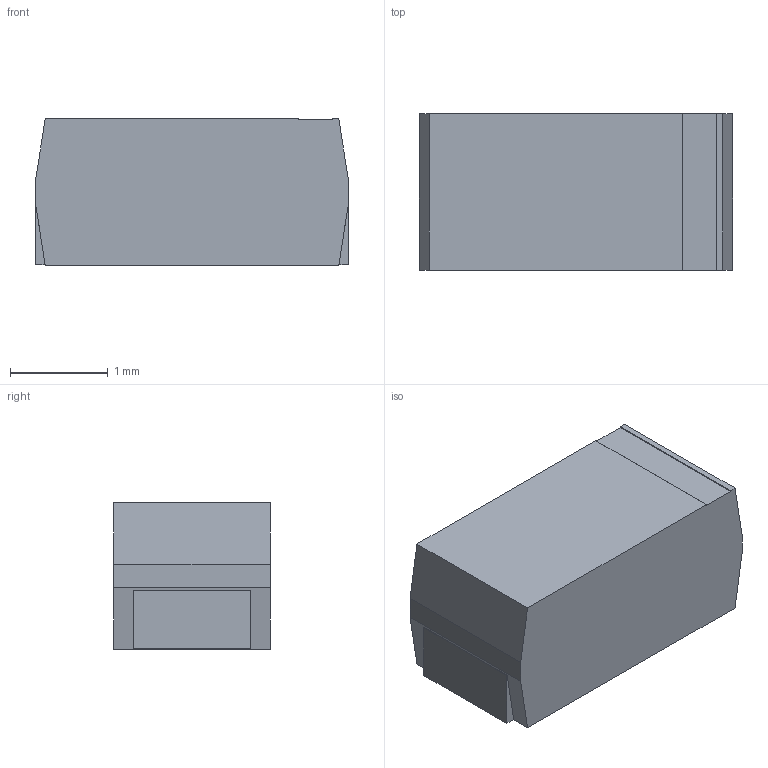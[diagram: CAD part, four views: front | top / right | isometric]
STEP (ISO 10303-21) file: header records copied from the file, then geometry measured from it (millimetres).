
FILE_DESCRIPTION (( 'STEP AP203' ), '1' );
FILE_NAME ('1206 Tantalum.stp.STEP', '2026-08-19T20:49:49', ( '' ), ( '' ), 'SwSTEP 2.0', 'SolidWorks 2024', '' );
FILE_SCHEMA (( 'CONFIG_CONTROL_DESIGN' ));
Length unit declared in the file: millimetre
Products named in the file (1): 1206 Tantalum.stp
Bounding box: 3.2 x 1.6 x 1.5 mm (x, y, z)
Volume: 7.5 mm3; surface area: 24.2 mm2
Topology: 1 solids, 1 shells, 24 faces, 60 edges, 40 vertices
Faces by surface type: plane 24
Entity records: 779 total; most frequent: CARTESIAN_POINT 125, ORIENTED_EDGE 120, DIRECTION 110, VECTOR 60, EDGE_CURVE 60, LINE 60, VERTEX_POINT 40, EDGE_LOOP 26
